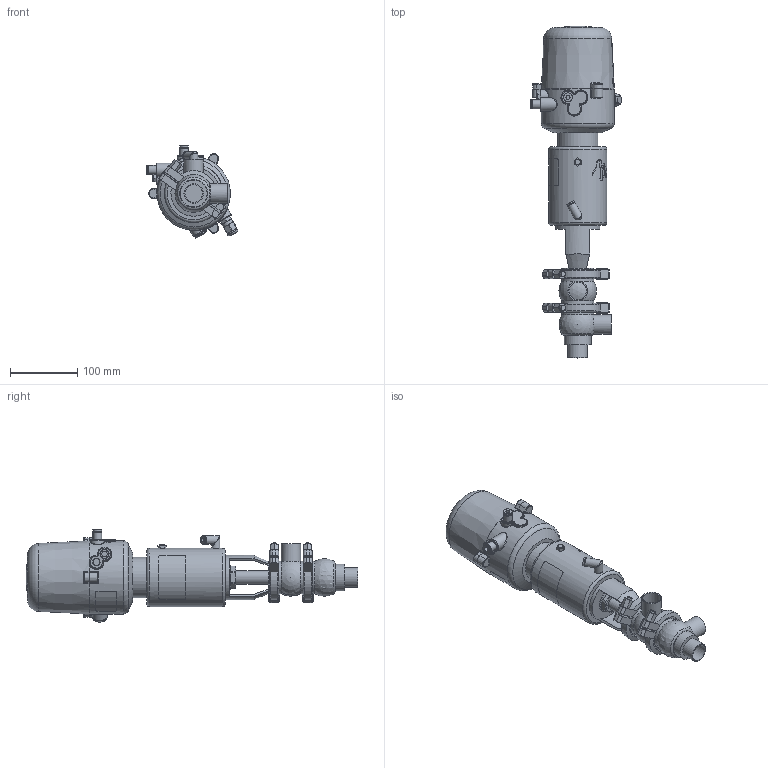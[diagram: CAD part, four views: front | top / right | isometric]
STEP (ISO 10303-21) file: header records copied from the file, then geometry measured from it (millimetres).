
FILE_DESCRIPTION (( 'STEP AP214' ), '1' );
FILE_NAME ('INNOVA K H W DIN 025 T1 AS NC & C-TOP S_10.240.16.0073.STEP', '2024-08-06T08:52:35', ( '' ), ( '' ), 'SwSTEP 2.0', 'SolidWorks 2023', '' );
FILE_SCHEMA (( 'AUTOMOTIVE_DESIGN' ));
Length unit declared in the file: millimetre
Products named in the file (8): 10.240.15.0006_DIN 025; 10.240.15.0010_DN 025; 10.240.15.0014_T1 AS P0; 10.426.15.0001_C-TOP S - 1 EV; 10.240.15.0017_Estàndard; INNOVA K H W DIN 025 T1 AS NC & C-TOP S_10.240.16.0073; 10.240.15.0002_DIN 025; 10.240.15.0001_DN 025
Assembly tree (8 placements, depth 2):
  INNOVA K H W DIN 025 T1 AS NC & C-TOP S_10.240.16.0073
    10.240.15.0006_DIN 025
    10.240.15.0002_DIN 025
    10.240.15.0010_DN 025
    10.240.15.0014_T1 AS P0
    10.240.15.0017_Estàndard
    10.426.15.0001_C-TOP S - 1 EV
    10.240.15.0001_DN 025  x2
Bounding box: 136.88 x 495 x 137.63 mm (x, y, z)
Volume: 2507320.3 mm3; surface area: 228918.9 mm2
Topology: 8 solids, 8 shells, 1177 faces, 2853 edges, 1898 vertices
Faces by surface type: plane 410, cylinder 357, cone 205, bspline 160, torus 37, sphere 8
Full cylindrical faces by diameter (mm): 0.371 x17, 0.512 x16, 0.658 x16, 0.795 x16, 0.94 x15, 1.098 x15, 1.241 x13, 1.382 x13, 1.523 x11, 1.669 x10, 2.201 x1, 4 x2, 5.5 x2, 6 x2, 6.15 x1, 8 x6, 8.5 x1, 10 x1, 10.5 x1, 11 x2, 12.5 x3, 13 x2, 13.5 x2, 16 x1, 17 x3, 20 x3, 20.5 x1, 22 x2, 26 x3, 29 x3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
Entity records: 57149 total; most frequent: CARTESIAN_POINT 26799, ORIENTED_EDGE 4548, DIRECTION 3681, EDGE_CURVE 2274, VERTEX_POINT 1615, EDGE_LOOP 1571, AXIS2_PLACEMENT_3D 1508, FACE_OUTER_BOUND 1335
